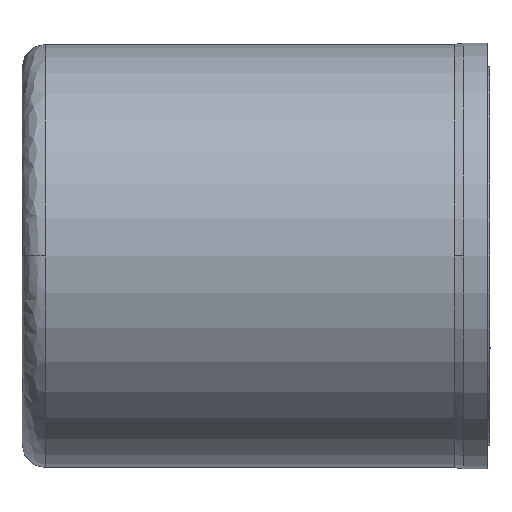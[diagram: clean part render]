
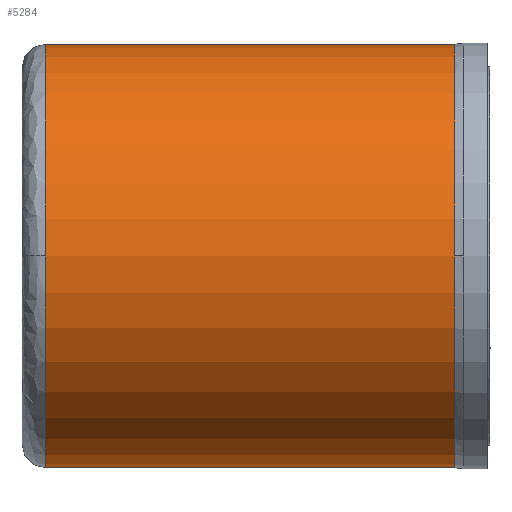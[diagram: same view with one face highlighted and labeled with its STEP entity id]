
A CAD part, front view. The second image highlights one B-rep face of the part: STEP entity #5284.
In plain terms, the highlighted cylindrical face has radius 22.65 mm (diameter 45.3 mm), a partial arc.
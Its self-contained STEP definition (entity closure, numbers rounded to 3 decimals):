
#1473 = AXIS2_PLACEMENT_3D ( 'NONE', #2697, #2698, #2699 ) ;
#1474 = FACE_OUTER_BOUND ( 'NONE', #6238, .T. ) ;
#1475 = CYLINDRICAL_SURFACE ( 'NONE', #1473, 22.65 ) ;
#1535 = VECTOR ( 'NONE', #2961, 1000. ) ;
#1541 = AXIS2_PLACEMENT_3D ( 'NONE', #3050, #3051, #3052 ) ;
#1571 = AXIS2_PLACEMENT_3D ( 'NONE', #3345, #3346, #3347 ) ;
#2697 = CARTESIAN_POINT ( 'NONE',  ( 23.15, 0., 0. ) ) ;
#2698 = DIRECTION ( 'NONE',  ( 1., 0., 0. ) ) ;
#2699 = DIRECTION ( 'NONE',  ( 0., 0., -1. ) ) ;
#2959 = LINE ( 'NONE', #2960, #1535 ) ;
#2960 = CARTESIAN_POINT ( 'NONE',  ( 23.15, 0., 22.65 ) ) ;
#2961 = DIRECTION ( 'NONE',  ( 1., 0., 0. ) ) ;
#3050 = CARTESIAN_POINT ( 'NONE',  ( 46.3, 0., 0. ) ) ;
#3051 = DIRECTION ( 'NONE',  ( -1., 0., 0. ) ) ;
#3052 = DIRECTION ( 'NONE',  ( 0., 0., -1. ) ) ;
#3345 = CARTESIAN_POINT ( 'NONE',  ( 46.3, 0., 0. ) ) ;
#3346 = DIRECTION ( 'NONE',  ( -1., 0., 0. ) ) ;
#3347 = DIRECTION ( 'NONE',  ( 0., 0., -1. ) ) ;
#3348 = CARTESIAN_POINT ( 'NONE',  ( 2.5, 0., 0. ) ) ;
#3355 = DIRECTION ( 'NONE',  ( 1., 0., 0. ) ) ;
#3356 = DIRECTION ( 'NONE',  ( 0., 0., -1. ) ) ;
#3357 = CARTESIAN_POINT ( 'NONE',  ( 2.5, -22.65, 0. ) ) ;
#3358 = CARTESIAN_POINT ( 'NONE',  ( 2.5, 0., -22.65 ) ) ;
#3364 = CARTESIAN_POINT ( 'NONE',  ( 46.3, -22.65, 0. ) ) ;
#3365 = CARTESIAN_POINT ( 'NONE',  ( 46.3, 0., -22.65 ) ) ;
#3370 = CARTESIAN_POINT ( 'NONE',  ( 2.5, 0., 22.65 ) ) ;
#3371 = CARTESIAN_POINT ( 'NONE',  ( 46.3, 0., 22.65 ) ) ;
#3723 = CIRCLE ( 'NONE', #1571, 22.65 ) ;
#3724 = CIRCLE ( 'NONE', #3743, 22.65 ) ;
#3743 = AXIS2_PLACEMENT_3D ( 'NONE', #3348, #3355, #3356 ) ;
#3817 = VECTOR ( 'NONE', #6359, 1000. ) ;
#3818 = AXIS2_PLACEMENT_3D ( 'NONE', #6360, #6361, #6362 ) ;
#4697 = CIRCLE ( 'NONE', #3818, 22.65 ) ;
#4698 = EDGE_CURVE ( 'NONE', #5704, #5711, #6357, .T. ) ;
#4699 = EDGE_CURVE ( 'NONE', #5703, #5704, #4697, .T. ) ;
#5284 = ADVANCED_FACE ( 'NONE', ( #1474 ), #1475, .T. ) ;
#5342 = EDGE_CURVE ( 'NONE', #5716, #5717, #2959, .T. ) ;
#5356 = EDGE_CURVE ( 'NONE', #5711, #5710, #5504, .T. ) ;
#5414 = EDGE_CURVE ( 'NONE', #5710, #5717, #3723, .T. ) ;
#5417 = EDGE_CURVE ( 'NONE', #5716, #5703, #3724, .T. ) ;
#5504 = CIRCLE ( 'NONE', #1541, 22.65 ) ;
#5703 = VERTEX_POINT ( 'NONE', #3357 ) ;
#5704 = VERTEX_POINT ( 'NONE', #3358 ) ;
#5710 = VERTEX_POINT ( 'NONE', #3364 ) ;
#5711 = VERTEX_POINT ( 'NONE', #3365 ) ;
#5716 = VERTEX_POINT ( 'NONE', #3370 ) ;
#5717 = VERTEX_POINT ( 'NONE', #3371 ) ;
#6238 = EDGE_LOOP ( 'NONE', ( #6352, #6353, #6354, #6351, #6355, #6356 ) ) ;
#6351 = ORIENTED_EDGE ( 'NONE', *, *, #4698, .T. ) ;
#6352 = ORIENTED_EDGE ( 'NONE', *, *, #5342, .F. ) ;
#6353 = ORIENTED_EDGE ( 'NONE', *, *, #5417, .T. ) ;
#6354 = ORIENTED_EDGE ( 'NONE', *, *, #4699, .T. ) ;
#6355 = ORIENTED_EDGE ( 'NONE', *, *, #5356, .T. ) ;
#6356 = ORIENTED_EDGE ( 'NONE', *, *, #5414, .T. ) ;
#6357 = LINE ( 'NONE', #6358, #3817 ) ;
#6358 = CARTESIAN_POINT ( 'NONE',  ( 23.15, 0., -22.65 ) ) ;
#6359 = DIRECTION ( 'NONE',  ( 1., 0., 0. ) ) ;
#6360 = CARTESIAN_POINT ( 'NONE',  ( 2.5, 0., 0. ) ) ;
#6361 = DIRECTION ( 'NONE',  ( 1., 0., 0. ) ) ;
#6362 = DIRECTION ( 'NONE',  ( 0., 0., -1. ) ) ;
